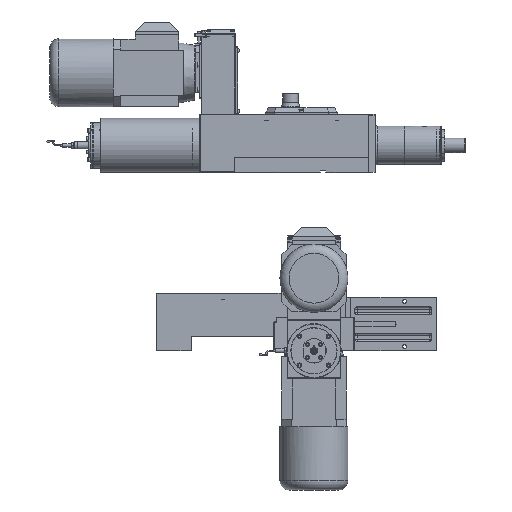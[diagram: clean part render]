
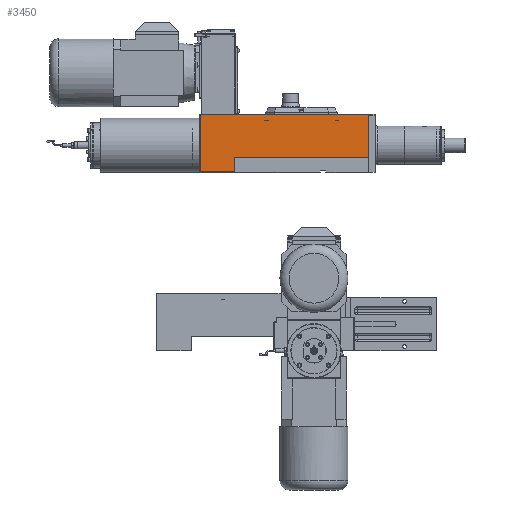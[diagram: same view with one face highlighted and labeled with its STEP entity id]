
A CAD part, front view. The second image highlights one B-rep face of the part: STEP entity #3450.
In plain terms, the highlighted planar face has unit normal (0, -1, 0).
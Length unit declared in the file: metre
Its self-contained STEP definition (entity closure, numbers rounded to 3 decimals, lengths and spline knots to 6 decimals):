
#3450 = ADVANCED_FACE( '', ( #5334 ), #5335, .T. );
#5334 = FACE_OUTER_BOUND( '', #8361, .T. );
#5335 = PLANE( '', #8362 );
#8361 = EDGE_LOOP( '', ( #14953, #14954, #14955, #14956, #14957, #14958 ) );
#8362 = AXIS2_PLACEMENT_3D( '', #14959, #14960, #14961 );
#14953 = ORIENTED_EDGE( '', *, *, #19860, .F. );
#14954 = ORIENTED_EDGE( '', *, *, #19861, .F. );
#14955 = ORIENTED_EDGE( '', *, *, #19862, .F. );
#14956 = ORIENTED_EDGE( '', *, *, #19863, .F. );
#14957 = ORIENTED_EDGE( '', *, *, #19864, .T. );
#14958 = ORIENTED_EDGE( '', *, *, #19865, .T. );
#14959 = CARTESIAN_POINT( '', ( 0.025, -0.019444, 0. ) );
#14960 = DIRECTION( '', ( 0., -1., 0. ) );
#14961 = DIRECTION( '', ( 0., 0., -1. ) );
#19860 = EDGE_CURVE( '', #22889, #22890, #22891, .T. );
#19861 = EDGE_CURVE( '', #22892, #22889, #22893, .T. );
#19862 = EDGE_CURVE( '', #22884, #22892, #22894, .T. );
#19863 = EDGE_CURVE( '', #22895, #22884, #22896, .T. );
#19864 = EDGE_CURVE( '', #22895, #22897, #22898, .T. );
#19865 = EDGE_CURVE( '', #22897, #22890, #22899, .T. );
#22884 = VERTEX_POINT( '', #28101 );
#22889 = VERTEX_POINT( '', #28109 );
#22890 = VERTEX_POINT( '', #28110 );
#22891 = LINE( '', #28111, #28112 );
#22892 = VERTEX_POINT( '', #28113 );
#22893 = LINE( '', #28114, #28115 );
#22894 = LINE( '', #28116, #28117 );
#22895 = VERTEX_POINT( '', #28118 );
#22896 = LINE( '', #28119, #28120 );
#22897 = VERTEX_POINT( '', #28121 );
#22898 = LINE( '', #28122, #28123 );
#22899 = LINE( '', #28124, #28125 );
#28101 = CARTESIAN_POINT( '', ( -0.3465, -0.019444, 0.0005 ) );
#28109 = CARTESIAN_POINT( '', ( 0.0245, -0.019444, 0.1265 ) );
#28110 = CARTESIAN_POINT( '', ( 0.0245, -0.019444, 0.032 ) );
#28111 = CARTESIAN_POINT( '', ( 0.0245, -0.019444, 0. ) );
#28112 = VECTOR( '', #34430, 1. );
#28113 = CARTESIAN_POINT( '', ( -0.3465, -0.019444, 0.1265 ) );
#28114 = CARTESIAN_POINT( '', ( -0.068, -0.019444, 0.1265 ) );
#28115 = VECTOR( '', #34431, 1. );
#28116 = CARTESIAN_POINT( '', ( -0.3465, -0.019444, 0. ) );
#28117 = VECTOR( '', #34432, 1. );
#28118 = CARTESIAN_POINT( '', ( -0.271, -0.019444, 0.0005 ) );
#28119 = CARTESIAN_POINT( '', ( -0.068, -0.019444, 0.0005 ) );
#28120 = VECTOR( '', #34433, 1. );
#28121 = CARTESIAN_POINT( '', ( -0.271, -0.019444, 0.032 ) );
#28122 = CARTESIAN_POINT( '', ( -0.271, -0.019444, 0. ) );
#28123 = VECTOR( '', #34434, 1. );
#28124 = CARTESIAN_POINT( '', ( -0.049, -0.019444, 0.032 ) );
#28125 = VECTOR( '', #34435, 1. );
#34430 = DIRECTION( '', ( 0., 0., -1. ) );
#34431 = DIRECTION( '', ( 1., 0., 0. ) );
#34432 = DIRECTION( '', ( 0., 0., 1. ) );
#34433 = DIRECTION( '', ( -1., 0., 0. ) );
#34434 = DIRECTION( '', ( 0., 0., 1. ) );
#34435 = DIRECTION( '', ( 1., 0., 0. ) );
